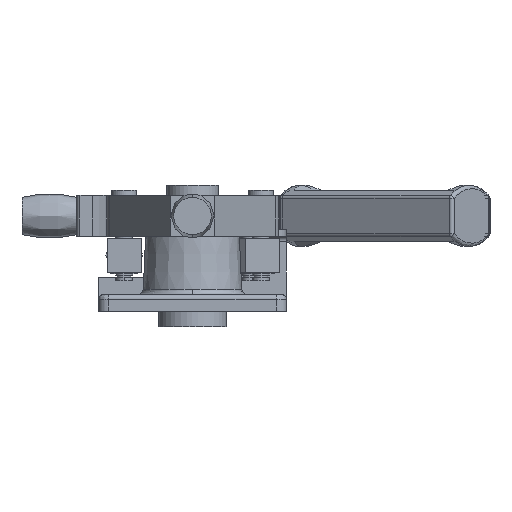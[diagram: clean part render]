
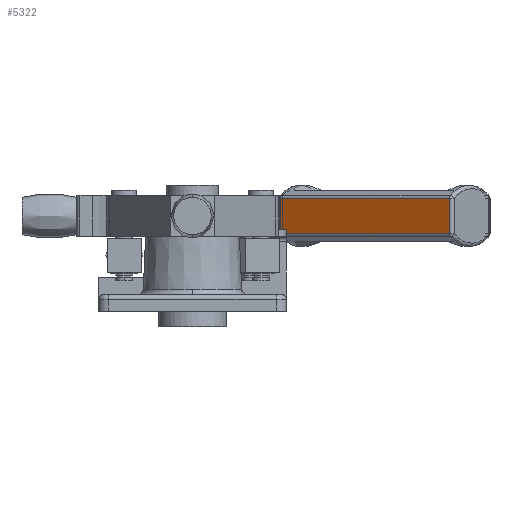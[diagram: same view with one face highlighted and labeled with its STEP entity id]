
A CAD part, front view. The second image highlights one B-rep face of the part: STEP entity #5322.
In plain terms, the highlighted planar face has unit normal (-0.574, -0.819, 0).
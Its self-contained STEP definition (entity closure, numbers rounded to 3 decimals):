
#474 = CARTESIAN_POINT ( 'NONE',  ( 150.721, -129.951, 45.538 ) ) ;
#3913 = ORIENTED_EDGE ( 'NONE', *, *, #6988, .F. ) ;
#4506 = EDGE_CURVE ( 'NONE', #8665, #6732, #9203, .T. ) ;
#4810 = ORIENTED_EDGE ( 'NONE', *, *, #4506, .T. ) ;
#4956 = ORIENTED_EDGE ( 'NONE', *, *, #7646, .F. ) ;
#5104 = ORIENTED_EDGE ( 'NONE', *, *, #6393, .F. ) ;
#5258 = EDGE_LOOP ( 'NONE', ( #5104, #4956, #4810, #3913 ) ) ;
#5322 = ADVANCED_FACE ( 'NONE', ( #10791 ), #10792, .F. ) ;
#5747 = VERTEX_POINT ( 'NONE', #11722 ) ;
#6393 = EDGE_CURVE ( 'NONE', #5747, #11943, #13295, .T. ) ;
#6732 = VERTEX_POINT ( 'NONE', #13830 ) ;
#6988 = EDGE_CURVE ( 'NONE', #11943, #6732, #14012, .T. ) ;
#7646 = EDGE_CURVE ( 'NONE', #8665, #5747, #14381, .T. ) ;
#8665 = VERTEX_POINT ( 'NONE', #14905 ) ;
#9203 = LINE ( 'NONE', #9204, #9205 ) ;
#9204 = CARTESIAN_POINT ( 'NONE',  ( 51.603, -60.548, 56. ) ) ;
#9205 = VECTOR ( 'NONE', #9206, 1000. ) ;
#9206 = DIRECTION ( 'NONE',  ( 0., 0., -1. ) ) ;
#10791 = FACE_OUTER_BOUND ( 'NONE', #5258, .T. ) ;
#10792 = PLANE ( 'NONE',  #10793 ) ;
#10793 = AXIS2_PLACEMENT_3D ( 'NONE', #10794, #10800, #10801 ) ;
#10794 = CARTESIAN_POINT ( 'NONE',  ( 152.703, -131.339, 66.88 ) ) ;
#10800 = DIRECTION ( 'NONE',  ( 0.574, 0.819, 0. ) ) ;
#10801 = DIRECTION ( 'NONE',  ( 0., 0., -1. ) ) ;
#11722 = CARTESIAN_POINT ( 'NONE',  ( 150.721, -129.951, 66.462 ) ) ;
#11943 = VERTEX_POINT ( 'NONE', #474 ) ;
#13295 = LINE ( 'NONE', #13296, #13297 ) ;
#13296 = CARTESIAN_POINT ( 'NONE',  ( 150.721, -129.951, 56. ) ) ;
#13297 = VECTOR ( 'NONE', #13308, 1000. ) ;
#13308 = DIRECTION ( 'NONE',  ( 0., 0., -1. ) ) ;
#13830 = CARTESIAN_POINT ( 'NONE',  ( 51.603, -60.548, 45.538 ) ) ;
#14012 = LINE ( 'NONE', #14013, #14014 ) ;
#14013 = CARTESIAN_POINT ( 'NONE',  ( 101.162, -95.25, 45.538 ) ) ;
#14014 = VECTOR ( 'NONE', #14015, 1000. ) ;
#14015 = DIRECTION ( 'NONE',  ( -0.819, 0.574, 0. ) ) ;
#14381 = LINE ( 'NONE', #14382, #14383 ) ;
#14382 = CARTESIAN_POINT ( 'NONE',  ( 101.162, -95.25, 66.462 ) ) ;
#14383 = VECTOR ( 'NONE', #14384, 1000. ) ;
#14384 = DIRECTION ( 'NONE',  ( 0.819, -0.574, 0. ) ) ;
#14905 = CARTESIAN_POINT ( 'NONE',  ( 51.603, -60.548, 66.462 ) ) ;
